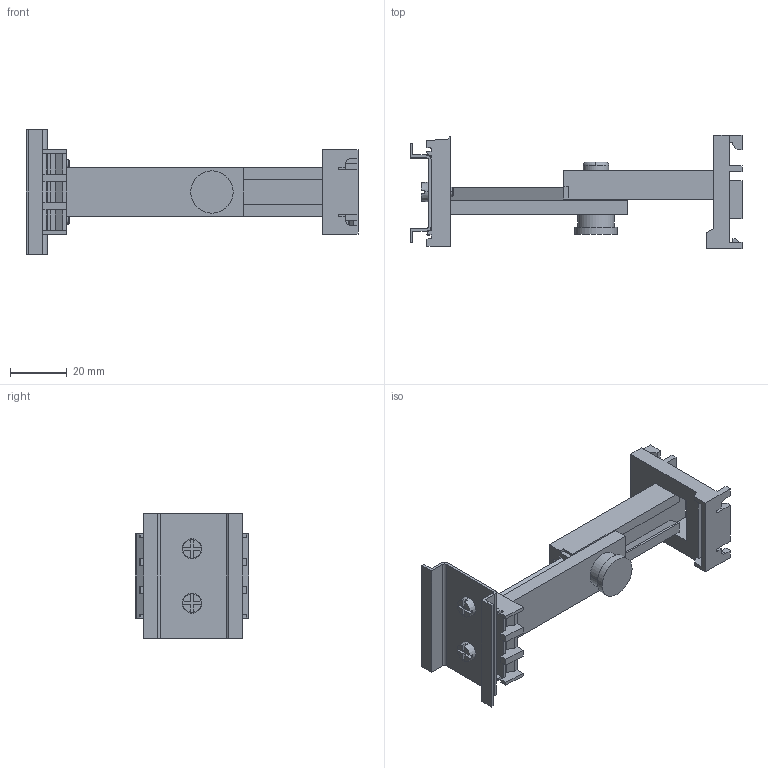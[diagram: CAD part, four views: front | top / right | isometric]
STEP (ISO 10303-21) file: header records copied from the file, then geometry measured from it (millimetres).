
FILE_DESCRIPTION( ( '' ), '1' );
FILE_NAME( '//expscmdclustefs.cadenas.external/client_exchange/iodir/jobs/output/wkb45970622_no0/STEP/226161_2_03.stp', '2012-06-14T14:22:53', ( '' ), ( '' ), ' ', ' ', ' ' );
FILE_SCHEMA( ( 'CONFIG_CONTROL_DESIGN' ) );
Length unit declared in the file: millimetre
Products named in the file (1): 1
Bounding box: 117.5 x 40 x 44 mm (x, y, z)
Volume: 30790.5 mm3; surface area: 18787.1 mm2
Topology: 1 solids, 1 shells, 251 faces, 728 edges, 481 vertices
Faces by surface type: plane 206, cylinder 33, cone 10, torus 2
Entity records: 8241 total; most frequent: CARTESIAN_POINT 1493, ORIENTED_EDGE 1456, DIRECTION 1327, EDGE_CURVE 728, LINE 601, VECTOR 601, VERTEX_POINT 481, AXIS2_PLACEMENT_3D 363
